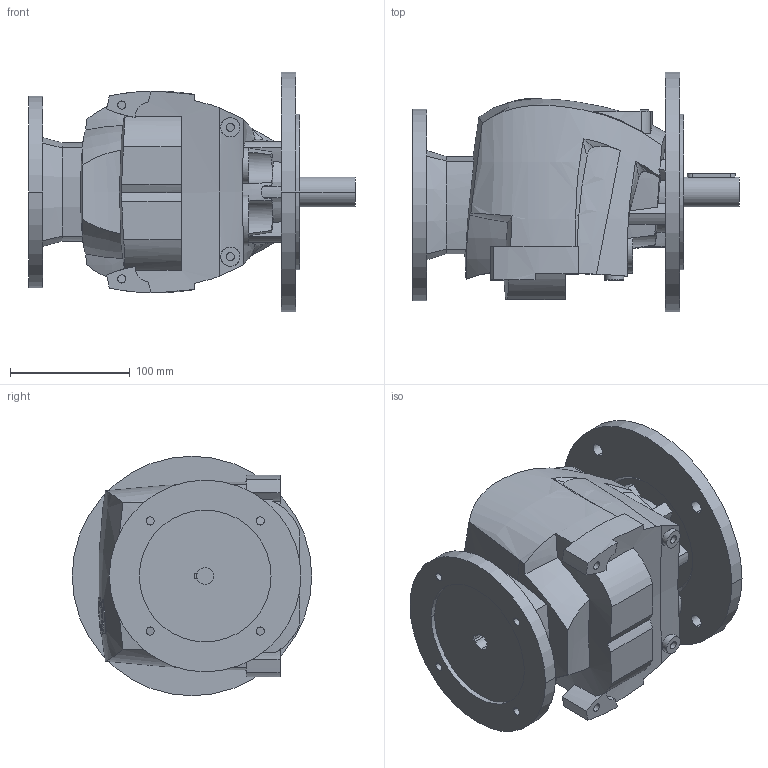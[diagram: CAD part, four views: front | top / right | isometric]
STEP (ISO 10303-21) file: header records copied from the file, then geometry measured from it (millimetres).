
FILE_DESCRIPTION((''),'2;1');
FILE_NAME('R25_200_PAM71','2013-12-17T',('Luca'),(''),'PRO/ENGINEER BY PARAMETRIC TECHNOLOGY CORPORATION, 2008230','PRO/ENGINEER BY PARAMETRIC TECHNOLOGY CORPORATION, 2008230','');
FILE_SCHEMA(('CONFIG_CONTROL_DESIGN'));
Length unit declared in the file: millimetre
Products named in the file (1): R25_200_PAM71
Bounding box: 273 x 200 x 200 mm (x, y, z)
Volume: 3708254.3 mm3; surface area: 249490.6 mm2
Topology: 1 solids, 7 shells, 408 faces, 1083 edges, 721 vertices
Faces by surface type: plane 149, cylinder 129, bspline 112, cone 12, torus 6
Entity records: 18476 total; most frequent: CARTESIAN_POINT 9155, ORIENTED_EDGE 2162, DIRECTION 1518, EDGE_CURVE 1081, VERTEX_POINT 721, AXIS2_PLACEMENT_3D 533, EDGE_LOOP 458, VECTOR 452
